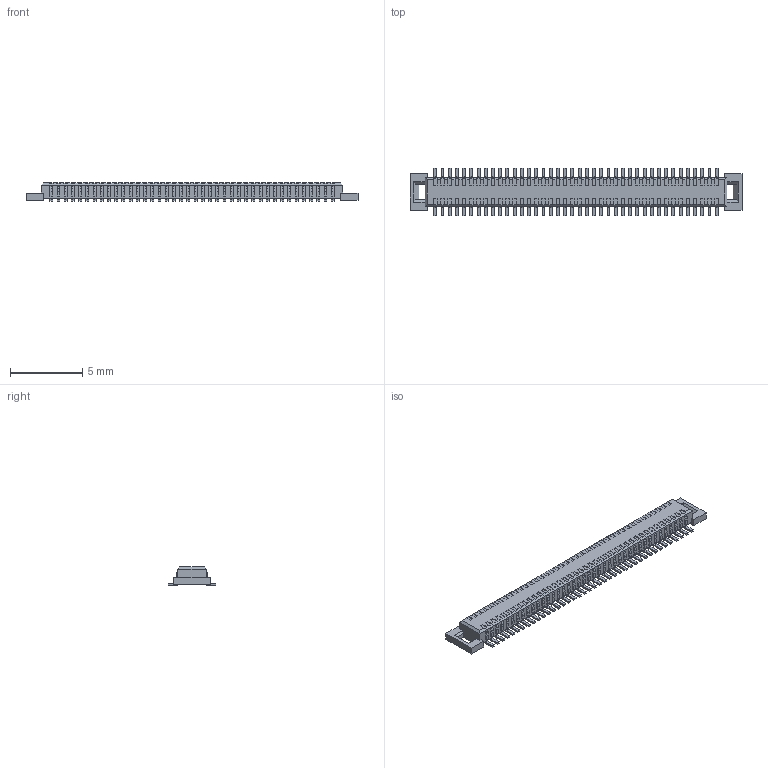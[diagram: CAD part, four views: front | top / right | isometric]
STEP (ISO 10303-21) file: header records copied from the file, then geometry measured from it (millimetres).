
FILE_DESCRIPTION (( 'STEP AP214' ), '1' );
FILE_NAME ('axk6f80347y.stp', '2007-10-04T01:52:09', ( '' ), ( 'PanasonicCorporation' ), '', '', '' );
FILE_SCHEMA (( 'AUTOMOTIVE_DESIGN' ));
Products named in the file (1): axk6f80347y
Bounding box: 23 x 3.3 x 1.25 mm (x, y, z)
Volume: 47.9 mm3; surface area: 206 mm2
Topology: 1 solids, 1 shells, 1874 faces, 5138 edges, 3424 vertices
Faces by surface type: plane 1394, cylinder 480
Entity records: 59121 total; most frequent: CARTESIAN_POINT 10437, ORIENTED_EDGE 10276, DIRECTION 9848, EDGE_CURVE 5138, VECTOR 4178, LINE 4178, VERTEX_POINT 3424, AXIS2_PLACEMENT_3D 2835
